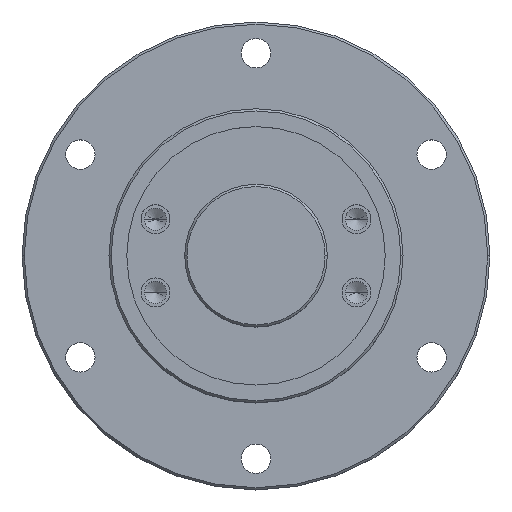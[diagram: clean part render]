
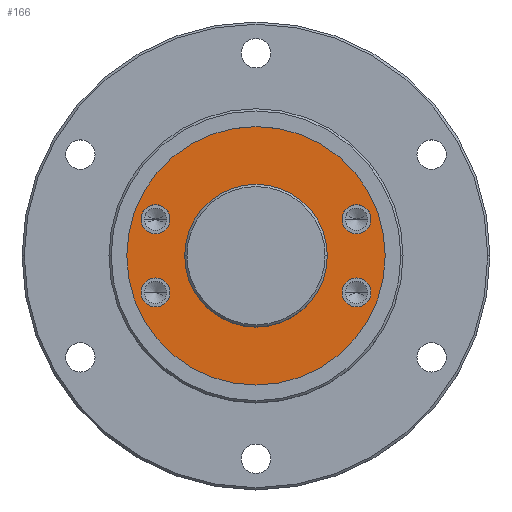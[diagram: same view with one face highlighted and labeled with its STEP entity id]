
A CAD part, top view. The second image highlights one B-rep face of the part: STEP entity #166.
In plain terms, the highlighted planar face has unit normal (0, 0, 1).
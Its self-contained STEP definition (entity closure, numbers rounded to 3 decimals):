
#74 = EDGE_CURVE ( 'NONE', #3093, #831, #4648, .T. ) ;
#123 = CARTESIAN_POINT ( 'NONE',  ( 25.803, -8.208, 0. ) ) ;
#144 = CARTESIAN_POINT ( 'NONE',  ( 22.553, 8.208, 0. ) ) ;
#149 = DIRECTION ( 'NONE',  ( 1., 0., 0. ) ) ;
#166 = ADVANCED_FACE ( 'NONE', ( #3232, #5381, #4255, #1957, #827, #3089 ), #1437, .F. ) ;
#169 = EDGE_CURVE ( 'NONE', #5360, #3944, #4116, .T. ) ;
#187 = ORIENTED_EDGE ( 'NONE', *, *, #355, .F. ) ;
#220 = VERTEX_POINT ( 'NONE', #2755 ) ;
#296 = VERTEX_POINT ( 'NONE', #4338 ) ;
#355 = EDGE_CURVE ( 'NONE', #950, #296, #1276, .T. ) ;
#486 = EDGE_LOOP ( 'NONE', ( #187, #5054 ) ) ;
#491 = EDGE_CURVE ( 'NONE', #2998, #3009, #3762, .T. ) ;
#499 = AXIS2_PLACEMENT_3D ( 'NONE', #4897, #2290, #5315 ) ;
#554 = AXIS2_PLACEMENT_3D ( 'NONE', #5276, #2691, #149 ) ;
#597 = DIRECTION ( 'NONE',  ( 1., 0., 0. ) ) ;
#610 = CARTESIAN_POINT ( 'NONE',  ( -22.553, -8.208, 0. ) ) ;
#664 = DIRECTION ( 'NONE',  ( 0., 0., 1. ) ) ;
#827 = FACE_BOUND ( 'NONE', #2697, .T. ) ;
#831 = VERTEX_POINT ( 'NONE', #2159 ) ;
#833 = DIRECTION ( 'NONE',  ( 0., 0., 1. ) ) ;
#950 = VERTEX_POINT ( 'NONE', #123 ) ;
#952 = AXIS2_PLACEMENT_3D ( 'NONE', #3386, #833, #3813 ) ;
#954 = CARTESIAN_POINT ( 'NONE',  ( 22.553, -8.208, 0. ) ) ;
#960 = EDGE_CURVE ( 'NONE', #1088, #220, #1887, .T. ) ;
#997 = EDGE_CURVE ( 'NONE', #831, #3093, #2460, .T. ) ;
#999 = DIRECTION ( 'NONE',  ( 0., 0., 1. ) ) ;
#1009 = CARTESIAN_POINT ( 'NONE',  ( 0., 29., 0. ) ) ;
#1018 = AXIS2_PLACEMENT_3D ( 'NONE', #3203, #664, #3631 ) ;
#1029 = DIRECTION ( 'NONE',  ( -1., 0., 0. ) ) ;
#1035 = CARTESIAN_POINT ( 'NONE',  ( -19.303, -8.208, 0. ) ) ;
#1036 = ORIENTED_EDGE ( 'NONE', *, *, #960, .F. ) ;
#1088 = VERTEX_POINT ( 'NONE', #3655 ) ;
#1276 = CIRCLE ( 'NONE', #2371, 3.25 ) ;
#1301 = EDGE_CURVE ( 'NONE', #4810, #2423, #2000, .T. ) ;
#1322 = CARTESIAN_POINT ( 'NONE',  ( 19.303, 8.208, 0. ) ) ;
#1361 = ORIENTED_EDGE ( 'NONE', *, *, #1301, .F. ) ;
#1377 = DIRECTION ( 'NONE',  ( 1., 0., 0. ) ) ;
#1437 = PLANE ( 'NONE',  #2815 ) ;
#1543 = CARTESIAN_POINT ( 'NONE',  ( -22.553, 8.208, 0. ) ) ;
#1592 = CIRCLE ( 'NONE', #1018, 3.25 ) ;
#1832 = EDGE_LOOP ( 'NONE', ( #5199, #3892 ) ) ;
#1858 = DIRECTION ( 'NONE',  ( 0., 0., -1. ) ) ;
#1887 = CIRCLE ( 'NONE', #554, 16. ) ;
#1914 = CARTESIAN_POINT ( 'NONE',  ( 0., 0., 0. ) ) ;
#1943 = AXIS2_PLACEMENT_3D ( 'NONE', #3561, #999, #3996 ) ;
#1957 = FACE_BOUND ( 'NONE', #486, .T. ) ;
#1959 = AXIS2_PLACEMENT_3D ( 'NONE', #144, #3130, #597 ) ;
#1965 = DIRECTION ( 'NONE',  ( -1., 0., 0. ) ) ;
#2000 = CIRCLE ( 'NONE', #3406, 3.25 ) ;
#2075 = CARTESIAN_POINT ( 'NONE',  ( -25.803, -8.208, 0. ) ) ;
#2079 = ORIENTED_EDGE ( 'NONE', *, *, #4988, .F. ) ;
#2136 = EDGE_LOOP ( 'NONE', ( #1361, #3066 ) ) ;
#2159 = CARTESIAN_POINT ( 'NONE',  ( 29., 0., 0. ) ) ;
#2193 = AXIS2_PLACEMENT_3D ( 'NONE', #2301, #5326, #2745 ) ;
#2204 = EDGE_LOOP ( 'NONE', ( #2556, #4505 ) ) ;
#2290 = DIRECTION ( 'NONE',  ( 0., 0., 1. ) ) ;
#2291 = CIRCLE ( 'NONE', #2706, 3.25 ) ;
#2301 = CARTESIAN_POINT ( 'NONE',  ( 22.553, -8.208, 0. ) ) ;
#2321 = DIRECTION ( 'NONE',  ( 1., 0., 0. ) ) ;
#2330 = ORIENTED_EDGE ( 'NONE', *, *, #491, .F. ) ;
#2371 = AXIS2_PLACEMENT_3D ( 'NONE', #954, #3947, #1377 ) ;
#2423 = VERTEX_POINT ( 'NONE', #3447 ) ;
#2444 = DIRECTION ( 'NONE',  ( 0., 0., 1. ) ) ;
#2460 = CIRCLE ( 'NONE', #499, 29. ) ;
#2556 = ORIENTED_EDGE ( 'NONE', *, *, #169, .F. ) ;
#2589 = CARTESIAN_POINT ( 'NONE',  ( 25.803, 8.208, 0. ) ) ;
#2606 = EDGE_CURVE ( 'NONE', #220, #1088, #5152, .T. ) ;
#2691 = DIRECTION ( 'NONE',  ( 0., 0., 1. ) ) ;
#2697 = EDGE_LOOP ( 'NONE', ( #2330, #2079 ) ) ;
#2706 = AXIS2_PLACEMENT_3D ( 'NONE', #5041, #2444, #5464 ) ;
#2745 = DIRECTION ( 'NONE',  ( 1., 0., 0. ) ) ;
#2755 = CARTESIAN_POINT ( 'NONE',  ( 16., 0., 0. ) ) ;
#2815 = AXIS2_PLACEMENT_3D ( 'NONE', #1009, #1858, #4875 ) ;
#2888 = AXIS2_PLACEMENT_3D ( 'NONE', #610, #3585, #1029 ) ;
#2998 = VERTEX_POINT ( 'NONE', #2589 ) ;
#3009 = VERTEX_POINT ( 'NONE', #1322 ) ;
#3024 = AXIS2_PLACEMENT_3D ( 'NONE', #1914, #4937, #2321 ) ;
#3066 = ORIENTED_EDGE ( 'NONE', *, *, #4160, .F. ) ;
#3089 = FACE_OUTER_BOUND ( 'NONE', #1832, .T. ) ;
#3093 = VERTEX_POINT ( 'NONE', #5192 ) ;
#3130 = DIRECTION ( 'NONE',  ( 0., 0., 1. ) ) ;
#3203 = CARTESIAN_POINT ( 'NONE',  ( -22.553, -8.208, 0. ) ) ;
#3232 = FACE_BOUND ( 'NONE', #4362, .T. ) ;
#3257 = CIRCLE ( 'NONE', #2193, 3.25 ) ;
#3386 = CARTESIAN_POINT ( 'NONE',  ( -22.553, 8.208, 0. ) ) ;
#3406 = AXIS2_PLACEMENT_3D ( 'NONE', #1543, #4542, #1965 ) ;
#3447 = CARTESIAN_POINT ( 'NONE',  ( -25.803, 8.208, 0. ) ) ;
#3561 = CARTESIAN_POINT ( 'NONE',  ( 0., 0., 0. ) ) ;
#3585 = DIRECTION ( 'NONE',  ( 0., 0., 1. ) ) ;
#3631 = DIRECTION ( 'NONE',  ( -1., 0., 0. ) ) ;
#3655 = CARTESIAN_POINT ( 'NONE',  ( -16., 0., 0. ) ) ;
#3762 = CIRCLE ( 'NONE', #1959, 3.25 ) ;
#3813 = DIRECTION ( 'NONE',  ( -1., 0., 0. ) ) ;
#3892 = ORIENTED_EDGE ( 'NONE', *, *, #74, .T. ) ;
#3944 = VERTEX_POINT ( 'NONE', #2075 ) ;
#3947 = DIRECTION ( 'NONE',  ( 0., 0., 1. ) ) ;
#3996 = DIRECTION ( 'NONE',  ( 1., 0., 0. ) ) ;
#4116 = CIRCLE ( 'NONE', #2888, 3.25 ) ;
#4160 = EDGE_CURVE ( 'NONE', #2423, #4810, #5073, .T. ) ;
#4255 = FACE_BOUND ( 'NONE', #2204, .T. ) ;
#4338 = CARTESIAN_POINT ( 'NONE',  ( 19.303, -8.208, 0. ) ) ;
#4362 = EDGE_LOOP ( 'NONE', ( #4771, #1036 ) ) ;
#4486 = EDGE_CURVE ( 'NONE', #3944, #5360, #1592, .T. ) ;
#4505 = ORIENTED_EDGE ( 'NONE', *, *, #4486, .F. ) ;
#4542 = DIRECTION ( 'NONE',  ( 0., 0., 1. ) ) ;
#4648 = CIRCLE ( 'NONE', #3024, 29. ) ;
#4765 = EDGE_CURVE ( 'NONE', #296, #950, #3257, .T. ) ;
#4771 = ORIENTED_EDGE ( 'NONE', *, *, #2606, .F. ) ;
#4810 = VERTEX_POINT ( 'NONE', #4948 ) ;
#4875 = DIRECTION ( 'NONE',  ( -1., 0., 0. ) ) ;
#4897 = CARTESIAN_POINT ( 'NONE',  ( 0., 0., 0. ) ) ;
#4937 = DIRECTION ( 'NONE',  ( 0., 0., 1. ) ) ;
#4948 = CARTESIAN_POINT ( 'NONE',  ( -19.303, 8.208, 0. ) ) ;
#4988 = EDGE_CURVE ( 'NONE', #3009, #2998, #2291, .T. ) ;
#5041 = CARTESIAN_POINT ( 'NONE',  ( 22.553, 8.208, 0. ) ) ;
#5054 = ORIENTED_EDGE ( 'NONE', *, *, #4765, .F. ) ;
#5073 = CIRCLE ( 'NONE', #952, 3.25 ) ;
#5152 = CIRCLE ( 'NONE', #1943, 16. ) ;
#5192 = CARTESIAN_POINT ( 'NONE',  ( -29., 0., 0. ) ) ;
#5199 = ORIENTED_EDGE ( 'NONE', *, *, #997, .T. ) ;
#5276 = CARTESIAN_POINT ( 'NONE',  ( 0., 0., 0. ) ) ;
#5315 = DIRECTION ( 'NONE',  ( 1., 0., 0. ) ) ;
#5326 = DIRECTION ( 'NONE',  ( 0., 0., 1. ) ) ;
#5360 = VERTEX_POINT ( 'NONE', #1035 ) ;
#5381 = FACE_BOUND ( 'NONE', #2136, .T. ) ;
#5464 = DIRECTION ( 'NONE',  ( 1., 0., 0. ) ) ;
